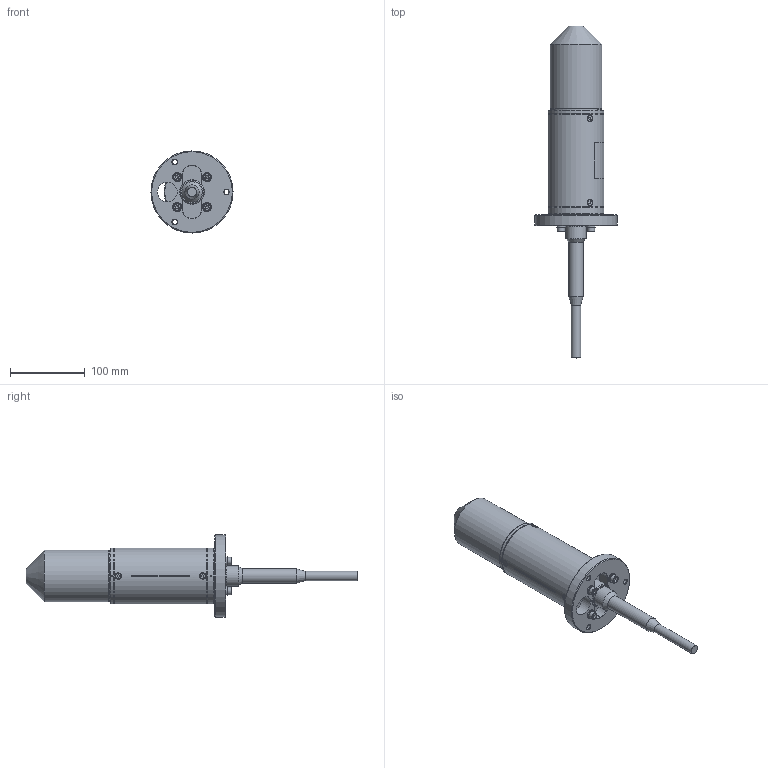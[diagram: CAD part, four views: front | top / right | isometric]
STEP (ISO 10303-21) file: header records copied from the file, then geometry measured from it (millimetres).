
FILE_DESCRIPTION (( 'STEP AP214' ), '1' );
FILE_NAME ('USBL Transducer.STEP', '2015-11-03T14:15:10', ( 'Allan' ), ( 'Microsoft' ), 'SwSTEP 2.0', 'SolidWorks 2015', '' );
FILE_SCHEMA (( 'AUTOMOTIVE_DESIGN' ));
Length unit declared in the file: millimetre
Products named in the file (2): USBL Transducer
Bounding box: 110 x 444.7 x 110 mm (x, y, z)
Surface area: 111018.9 mm2 (no closed solid volume)
Topology: 0 solids, 23 shells, 168 faces, 495 edges, 333 vertices
Faces by surface type: plane 90, cylinder 36, cone 35, torus 7
Full cylindrical faces by diameter (mm): 2 x2, 6.5 x3, 7.5 x2, 10 x4, 12.2 x4, 12.4 x1, 19 x1, 26.591 x1, 27.3 x1, 27.5 x1, 32.5 x1, 69.4 x2, 75 x4, 110 x1
Entity records: 7469 total; most frequent: CARTESIAN_POINT 1426, DIRECTION 891, ORIENTED_EDGE 638, EDGE_CURVE 412, AXIS2_PLACEMENT_3D 324, VERTEX_POINT 315, EDGE_LOOP 282, VECTOR 243
